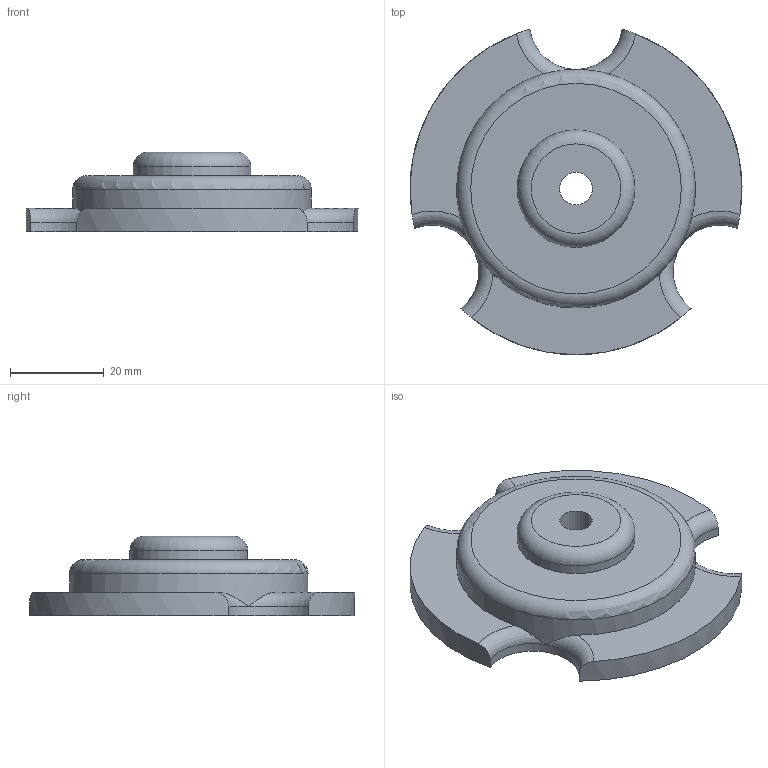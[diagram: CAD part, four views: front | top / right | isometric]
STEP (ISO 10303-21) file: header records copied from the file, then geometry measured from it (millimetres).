
FILE_DESCRIPTION(/* description */ ('STEP AP242 Edition 2','CAx-IF Rec.Pracs.---Representation and Presentation of Product Manufacturing Information (PMI)---4.0---2014-10-13','CAx-IF Rec.Pracs.---3D Tessellated Geometry---0.4---2014-09-14','2;1','CAx-IF Rec.Pracs.---User Defined Attributes---1.5---2016-08-15'),/* implementation_level */ '2;1');
FILE_NAME(/* name */ 'MagnetAssembly - Top',/* time_stamp */ '2026-01-28T16:59:11Z',/* author */ (''),/* organization */ (''),/* preprocessor_version */ 'ST-DEVELOPER v20',/* originating_system */ 'ONSHAPE BY PTC INC, 1.209',/* authorisation */ ' ');
FILE_SCHEMA (('AP242_MANAGED_MODEL_BASED_3D_ENGINEERING_MIM_LF { 1 0 10303 442 3 1 4 }'));
Length unit declared in the file: metre
Products named in the file (1): Top
Bounding box: 70.99 x 69.6 x 17 mm (x, y, z)
Volume: 32568 mm3; surface area: 9828.4 mm2
Topology: 1 solids, 1 shells, 30 faces, 73 edges, 47 vertices
Faces by surface type: plane 13, cylinder 9, torus 8
Full cylindrical faces by diameter (mm): 7 x1, 25.15 x1, 51.05 x1
Entity records: 904 total; most frequent: CARTESIAN_POINT 192, DIRECTION 148, ORIENTED_EDGE 134, EDGE_CURVE 67, AXIS2_PLACEMENT_3D 62, VERTEX_POINT 46, EDGE_LOOP 39, FACE_BOUND 39
